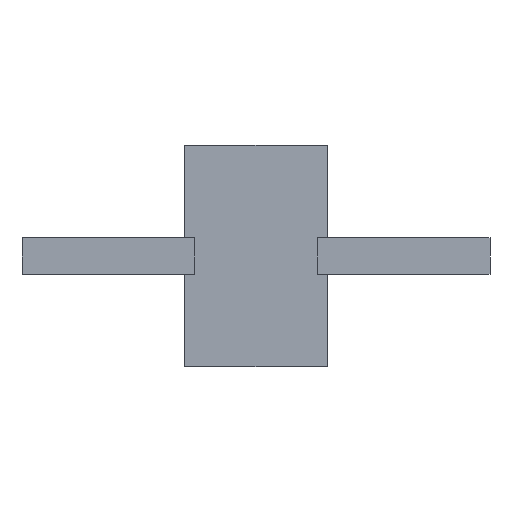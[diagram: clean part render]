
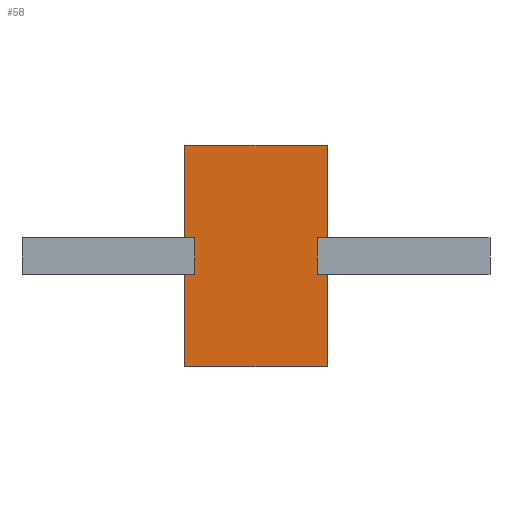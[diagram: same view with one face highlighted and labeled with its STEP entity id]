
A CAD part, top view. The second image highlights one B-rep face of the part: STEP entity #58.
In plain terms, the highlighted planar face has unit normal (0, 0, 1).
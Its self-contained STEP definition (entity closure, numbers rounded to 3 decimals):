
#58=ADVANCED_FACE('',(#220),#222,.T.);
#220=FACE_BOUND('',#221,.T.);
#221=EDGE_LOOP('',(#346,#347,#348,#349,#350,#351,#352,#353,#354,#355,#356,#357));
#222=PLANE('',#223);
#223=AXIS2_PLACEMENT_3D('',#224,#225,#226);
#224=CARTESIAN_POINT('',(0.,0.,1.));
#225=DIRECTION('',(0.,0.,1.));
#226=DIRECTION('',(-1.,0.,0.));
#346=ORIENTED_EDGE('',*,*,#434,.F.);
#347=ORIENTED_EDGE('',*,*,#435,.F.);
#348=ORIENTED_EDGE('',*,*,#436,.F.);
#349=ORIENTED_EDGE('',*,*,#437,.T.);
#350=ORIENTED_EDGE('',*,*,#438,.T.);
#351=ORIENTED_EDGE('',*,*,#439,.T.);
#352=ORIENTED_EDGE('',*,*,#440,.F.);
#353=ORIENTED_EDGE('',*,*,#441,.F.);
#354=ORIENTED_EDGE('',*,*,#442,.F.);
#355=ORIENTED_EDGE('',*,*,#443,.T.);
#356=ORIENTED_EDGE('',*,*,#444,.T.);
#357=ORIENTED_EDGE('',*,*,#445,.T.);
#434=EDGE_CURVE('',#478,#479,#480,.T.);
#435=EDGE_CURVE('',#481,#478,#482,.T.);
#436=EDGE_CURVE('',#483,#481,#484,.T.);
#437=EDGE_CURVE('',#483,#485,#486,.T.);
#438=EDGE_CURVE('',#485,#487,#488,.T.);
#439=EDGE_CURVE('',#487,#489,#490,.T.);
#440=EDGE_CURVE('',#491,#489,#492,.T.);
#441=EDGE_CURVE('',#493,#491,#494,.T.);
#442=EDGE_CURVE('',#495,#493,#496,.T.);
#443=EDGE_CURVE('',#495,#497,#498,.T.);
#444=EDGE_CURVE('',#497,#499,#500,.T.);
#445=EDGE_CURVE('',#499,#479,#501,.T.);
#478=VERTEX_POINT('',#550);
#479=VERTEX_POINT('',#551);
#480=LINE('',#552,#553);
#481=VERTEX_POINT('',#555);
#482=LINE('',#556,#557);
#483=VERTEX_POINT('',#559);
#484=LINE('',#560,#561);
#485=VERTEX_POINT('',#563);
#486=LINE('',#564,#565);
#487=VERTEX_POINT('',#567);
#488=LINE('',#568,#569);
#489=VERTEX_POINT('',#571);
#490=LINE('',#572,#573);
#491=VERTEX_POINT('',#575);
#492=LINE('',#576,#577);
#493=VERTEX_POINT('',#579);
#494=LINE('',#580,#581);
#495=VERTEX_POINT('',#583);
#496=LINE('',#584,#585);
#497=VERTEX_POINT('',#587);
#498=LINE('',#588,#589);
#499=VERTEX_POINT('',#591);
#500=LINE('',#592,#593);
#501=LINE('',#595,#596);
#550=CARTESIAN_POINT('',(2.484,-0.75,1.));
#551=CARTESIAN_POINT('',(2.9,-0.75,1.));
#552=CARTESIAN_POINT('',(2.484,-0.75,1.));
#553=VECTOR('',#554,1.);
#554=DIRECTION('',(1.,0.,0.));
#555=CARTESIAN_POINT('',(2.484,0.75,1.));
#556=CARTESIAN_POINT('',(2.484,0.75,1.));
#557=VECTOR('',#558,1.);
#558=DIRECTION('',(0.,-1.,0.));
#559=CARTESIAN_POINT('',(2.9,0.75,1.));
#560=CARTESIAN_POINT('',(2.9,0.75,1.));
#561=VECTOR('',#562,1.);
#562=DIRECTION('',(-1.,0.,0.));
#563=CARTESIAN_POINT('',(2.9,4.5,1.));
#564=CARTESIAN_POINT('',(2.9,0.75,1.));
#565=VECTOR('',#566,1.);
#566=DIRECTION('',(0.,1.,0.));
#567=CARTESIAN_POINT('',(-2.9,4.5,1.));
#568=CARTESIAN_POINT('',(2.9,4.5,1.));
#569=VECTOR('',#570,1.);
#570=DIRECTION('',(-1.,0.,0.));
#571=CARTESIAN_POINT('',(-2.9,0.75,1.));
#572=CARTESIAN_POINT('',(-2.9,4.5,1.));
#573=VECTOR('',#574,1.);
#574=DIRECTION('',(0.,-1.,0.));
#575=CARTESIAN_POINT('',(-2.484,0.75,1.));
#576=CARTESIAN_POINT('',(-2.484,0.75,1.));
#577=VECTOR('',#578,1.);
#578=DIRECTION('',(-1.,0.,0.));
#579=CARTESIAN_POINT('',(-2.484,-0.75,1.));
#580=CARTESIAN_POINT('',(-2.484,-0.75,1.));
#581=VECTOR('',#582,1.);
#582=DIRECTION('',(0.,1.,0.));
#583=CARTESIAN_POINT('',(-2.9,-0.75,1.));
#584=CARTESIAN_POINT('',(-2.9,-0.75,1.));
#585=VECTOR('',#586,1.);
#586=DIRECTION('',(1.,0.,0.));
#587=CARTESIAN_POINT('',(-2.9,-4.5,1.));
#588=CARTESIAN_POINT('',(-2.9,-0.75,1.));
#589=VECTOR('',#590,1.);
#590=DIRECTION('',(0.,-1.,0.));
#591=CARTESIAN_POINT('',(2.9,-4.5,1.));
#592=CARTESIAN_POINT('',(-2.9,-4.5,1.));
#593=VECTOR('',#594,1.);
#594=DIRECTION('',(1.,0.,0.));
#595=CARTESIAN_POINT('',(2.9,-4.5,1.));
#596=VECTOR('',#597,1.);
#597=DIRECTION('',(0.,1.,0.));
